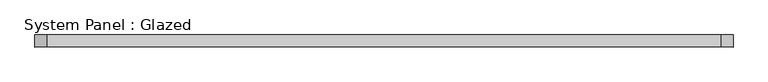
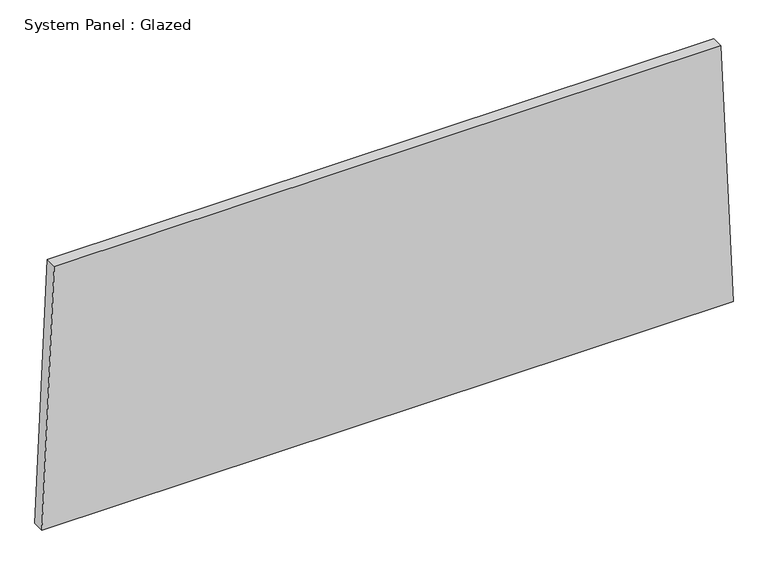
"""IFC4 building model written with IfcOpenShell, lengths in millimetres: plate geometry, System Panel : Glazed."""

from ifc_helpers import new_model, si_unit, frame, origin, place, context, project, spatial, polyline, outline, extrude, source, transform, mapped, element, save


def system_panel_glazed_94578217(model_context):
    return source(origin(), model_context, "Body", "SweptSolid", [
        extrude(outline(polyline([(0.0, -734.2808367), (0.0, 734.2808367), (583.5928452, 708.2146929), (583.5928452, -708.2146929), (0.0, -734.2808367)])), frame((0.0, 19.05, 0.0), z_axis=(0.0, 1.0, 0.0), x_axis=(0.0, 0.0, 1.0)), (0.0, 0.0, 1.0), 25.4),
    ])


if __name__ == "__main__":
    model = new_model("IFC4")
    model_context = context("Model", 3, world=origin())
    ifc_project = project(units=[si_unit("LENGTHUNIT", "METRE", prefix="MILLI")], contexts=[model_context])
    site = spatial("IfcSite", under=ifc_project)
    building = spatial("IfcBuilding", under=site)
    placement = place(None, origin())
    system_panel_glazed_shape = system_panel_glazed_94578217(model_context)
    element("IfcPlate", 1, ObjectType="System Panel : Glazed", at=placement, inside=building, context=model_context, shape_type="MappedRepresentation", body=[
        mapped(system_panel_glazed_shape, transform((0.0, 0.0, 0.0), x_axis=(1.0, 0.0, 0.0), y_axis=(0.0, 1.0, 0.0), z_axis=(0.0, 0.0, 1.0))),
    ])
    save(model, "model.ifc")
